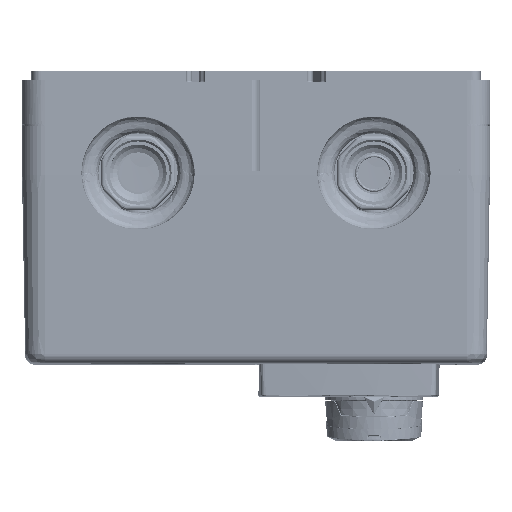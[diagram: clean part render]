
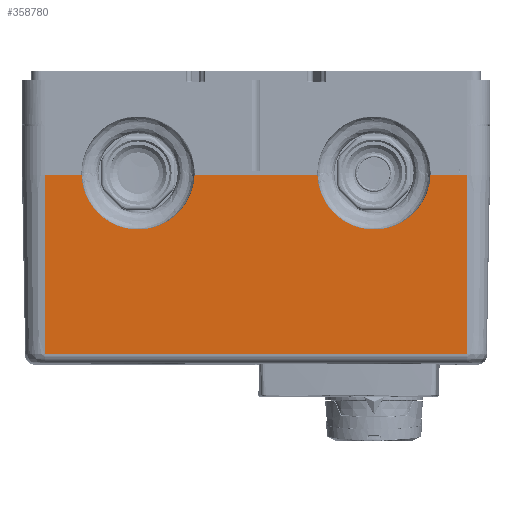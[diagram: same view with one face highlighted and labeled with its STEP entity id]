
A CAD part, top view. The second image highlights one B-rep face of the part: STEP entity #358780.
In plain terms, the highlighted planar face has unit normal (0, -0.018, 1) as drawn and (0, -1, 0.017) by its records, which use the part's own axes.
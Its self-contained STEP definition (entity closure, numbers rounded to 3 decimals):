
#3052 = ORIENTED_EDGE ( 'NONE', *, *, #443039, .T. ) ;
#5089 = VERTEX_POINT ( 'NONE', #332504 ) ;
#8185 =( BOUNDED_CURVE ( )  B_SPLINE_CURVE ( 3, ( #294435, #551148, #754508, #498000 ),
 .UNSPECIFIED., .F., .F. ) 
 B_SPLINE_CURVE_WITH_KNOTS ( ( 4, 4 ),
 ( 4.744, 7.822 ),
 .UNSPECIFIED. ) 
 CURVE ( )  GEOMETRIC_REPRESENTATION_ITEM ( )  RATIONAL_B_SPLINE_CURVE ( ( 1., 0.355, 0.355, 1. ) ) 
 REPRESENTATION_ITEM ( '' )  );
#17264 = VECTOR ( 'NONE', #468999, 1000. ) ;
#22501 = DIRECTION ( 'NONE',  ( 1., 0., 0. ) ) ;
#51471 = VERTEX_POINT ( 'NONE', #71892 ) ;
#71892 = CARTESIAN_POINT ( 'NONE',  ( -689.021, -54.98, 0. ) ) ;
#104199 = ORIENTED_EDGE ( 'NONE', *, *, #825738, .T. ) ;
#134773 = VECTOR ( 'NONE', #22501, 1000. ) ;
#184954 = LINE ( 'NONE', #313184, #311760 ) ;
#190591 = CARTESIAN_POINT ( 'NONE',  ( -504.055, -54.98, 0. ) ) ;
#191410 = ORIENTED_EDGE ( 'NONE', *, *, #722373, .T. ) ;
#195277 = CARTESIAN_POINT ( 'NONE',  ( -484.537, -54.98, 0. ) ) ;
#223944 = VERTEX_POINT ( 'NONE', #503144 ) ;
#247582 = CARTESIAN_POINT ( 'NONE',  ( -504.055, -54.98, 0. ) ) ;
#256824 = CARTESIAN_POINT ( 'NONE',  ( -562.218, -53.996, 56.331 ) ) ;
#269852 = CARTESIAN_POINT ( 'NONE',  ( -484.537, -54.98, 0. ) ) ;
#284113 = CARTESIAN_POINT ( 'NONE',  ( -484.537, -54.98, 0. ) ) ;
#292343 = CARTESIAN_POINT ( 'NONE',  ( -564.021, -54.98, 0. ) ) ;
#294435 = CARTESIAN_POINT ( 'NONE',  ( -689.021, -54.98, 0. ) ) ;
#297577 = CARTESIAN_POINT ( 'NONE',  ( -484.537, -53.32, 95.087 ) ) ;
#304096 =( BOUNDED_CURVE ( )  B_SPLINE_CURVE ( 3, ( #398377, #256824, #796297, #190591 ),
 .UNSPECIFIED., .F., .F. ) 
 B_SPLINE_CURVE_WITH_KNOTS ( ( 4, 4 ),
 ( 4.744, 7.822 ),
 .UNSPECIFIED. ) 
 CURVE ( )  GEOMETRIC_REPRESENTATION_ITEM ( )  RATIONAL_B_SPLINE_CURVE ( ( 1., 0.355, 0.355, 1. ) ) 
 REPRESENTATION_ITEM ( '' )  );
#311620 = ORIENTED_EDGE ( 'NONE', *, *, #564320, .T. ) ;
#311760 = VECTOR ( 'NONE', #317553, 1000. ) ;
#313184 = CARTESIAN_POINT ( 'NONE',  ( -484.537, -53.32, 95.087 ) ) ;
#317553 = DIRECTION ( 'NONE',  ( -1., 0., 0. ) ) ;
#332173 = DIRECTION ( 'NONE',  ( 1., 0., 0. ) ) ;
#332504 = CARTESIAN_POINT ( 'NONE',  ( -708.537, -54.98, 0. ) ) ;
#335834 = LINE ( 'NONE', #770011, #636560 ) ;
#358780 = ADVANCED_FACE ( 'NONE', ( #778017 ), #707291, .T. ) ;
#398377 = CARTESIAN_POINT ( 'NONE',  ( -564.021, -54.98, 0. ) ) ;
#416033 = LINE ( 'NONE', #195277, #686078 ) ;
#419880 = LINE ( 'NONE', #561161, #739787 ) ;
#427804 = VERTEX_POINT ( 'NONE', #292343 ) ;
#439405 = ORIENTED_EDGE ( 'NONE', *, *, #864575, .T. ) ;
#443039 = EDGE_CURVE ( 'NONE', #5089, #51471, #676477, .T. ) ;
#458662 = EDGE_CURVE ( 'NONE', #729671, #503781, #184954, .T. ) ;
#468999 = DIRECTION ( 'NONE',  ( 1., 0., 0. ) ) ;
#482669 = VERTEX_POINT ( 'NONE', #284113 ) ;
#498000 = CARTESIAN_POINT ( 'NONE',  ( -629.054, -54.98, 0. ) ) ;
#503144 = CARTESIAN_POINT ( 'NONE',  ( -629.054, -54.98, 0. ) ) ;
#503781 = VERTEX_POINT ( 'NONE', #839041 ) ;
#523882 = VERTEX_POINT ( 'NONE', #247582 ) ;
#538865 = CARTESIAN_POINT ( 'NONE',  ( -484.537, -54.98, 0. ) ) ;
#543609 = DIRECTION ( 'NONE',  ( 0., 0.017, 1. ) ) ;
#551148 = CARTESIAN_POINT ( 'NONE',  ( -687.223, -53.996, 56.343 ) ) ;
#561161 = CARTESIAN_POINT ( 'NONE',  ( -708.537, -54.98, 0. ) ) ;
#561625 = EDGE_CURVE ( 'NONE', #523882, #482669, #566163, .T. ) ;
#564320 = EDGE_CURVE ( 'NONE', #427804, #523882, #304096, .T. ) ;
#566163 = LINE ( 'NONE', #698817, #134773 ) ;
#579524 = AXIS2_PLACEMENT_3D ( 'NONE', #538865, #808533, #866179 ) ;
#623301 = EDGE_CURVE ( 'NONE', #5089, #503781, #419880, .T. ) ;
#636560 = VECTOR ( 'NONE', #543609, 1000. ) ;
#662705 = ORIENTED_EDGE ( 'NONE', *, *, #561625, .T. ) ;
#666933 = ORIENTED_EDGE ( 'NONE', *, *, #458662, .T. ) ;
#676477 = LINE ( 'NONE', #269852, #17264 ) ;
#686078 = VECTOR ( 'NONE', #332173, 1000. ) ;
#698817 = CARTESIAN_POINT ( 'NONE',  ( -484.537, -54.98, 0. ) ) ;
#707291 = PLANE ( 'NONE',  #579524 ) ;
#722373 = EDGE_CURVE ( 'NONE', #482669, #729671, #335834, .T. ) ;
#729671 = VERTEX_POINT ( 'NONE', #297577 ) ;
#739787 = VECTOR ( 'NONE', #830977, 1000. ) ;
#754508 = CARTESIAN_POINT ( 'NONE',  ( -630.852, -53.996, 56.343 ) ) ;
#755459 = ORIENTED_EDGE ( 'NONE', *, *, #623301, .F. ) ;
#770011 = CARTESIAN_POINT ( 'NONE',  ( -484.537, -54.98, 0. ) ) ;
#778017 = FACE_OUTER_BOUND ( 'NONE', #788619, .T. ) ;
#788619 = EDGE_LOOP ( 'NONE', ( #439405, #311620, #662705, #191410, #666933, #755459, #3052, #104199 ) ) ;
#796297 = CARTESIAN_POINT ( 'NONE',  ( -505.858, -53.996, 56.331 ) ) ;
#808533 = DIRECTION ( 'NONE',  ( 0., -1., 0.017 ) ) ;
#825738 = EDGE_CURVE ( 'NONE', #51471, #223944, #8185, .T. ) ;
#830977 = DIRECTION ( 'NONE',  ( 0., 0.017, 1. ) ) ;
#839041 = CARTESIAN_POINT ( 'NONE',  ( -708.537, -53.32, 95.087 ) ) ;
#864575 = EDGE_CURVE ( 'NONE', #223944, #427804, #416033, .T. ) ;
#866179 = DIRECTION ( 'NONE',  ( 0., -0.017, -1. ) ) ;
